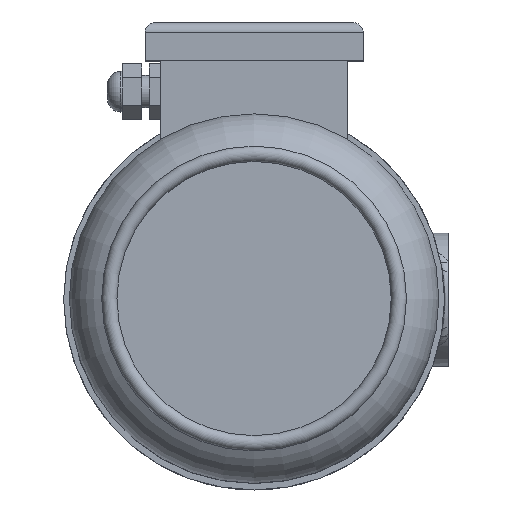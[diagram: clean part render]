
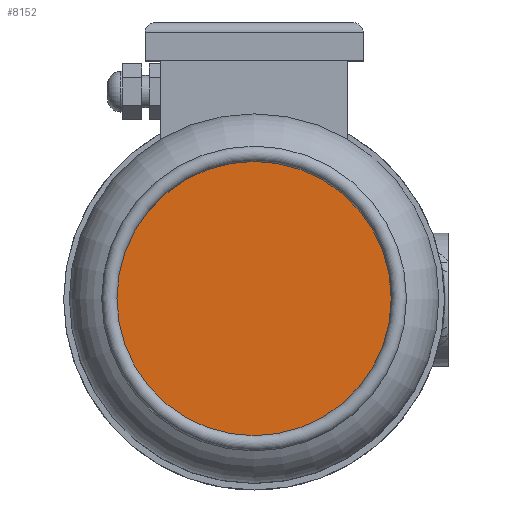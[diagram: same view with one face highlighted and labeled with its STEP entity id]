
A CAD part, top view. The second image highlights one B-rep face of the part: STEP entity #8152.
In plain terms, the highlighted planar face has unit normal (0, 0, 1).
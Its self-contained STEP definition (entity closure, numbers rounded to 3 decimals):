
#613=PLANE('',#8993);
#3952=ORIENTED_EDGE('',*,*,#5198,.F.);
#5198=EDGE_CURVE('',#6019,#6019,#6492,.T.);
#6019=VERTEX_POINT('',#17225);
#6492=CIRCLE('',#8994,72.);
#7028=EDGE_LOOP('',(#3952));
#7594=FACE_BOUND('',#7028,.T.);
#8152=ADVANCED_FACE('',(#7594),#613,.T.);
#8993=AXIS2_PLACEMENT_3D('',#17223,#11125,#11126);
#8994=AXIS2_PLACEMENT_3D('',#17224,#11127,#11128);
#11125=DIRECTION('',(0.,0.,1.));
#11126=DIRECTION('',(1.,0.,0.));
#11127=DIRECTION('',(0.,0.,-1.));
#11128=DIRECTION('',(-1.,0.,0.));
#17223=CARTESIAN_POINT('',(-72.,0.,632.64));
#17224=CARTESIAN_POINT('',(0.,0.,632.64));
#17225=CARTESIAN_POINT('',(-72.,0.,632.64));
